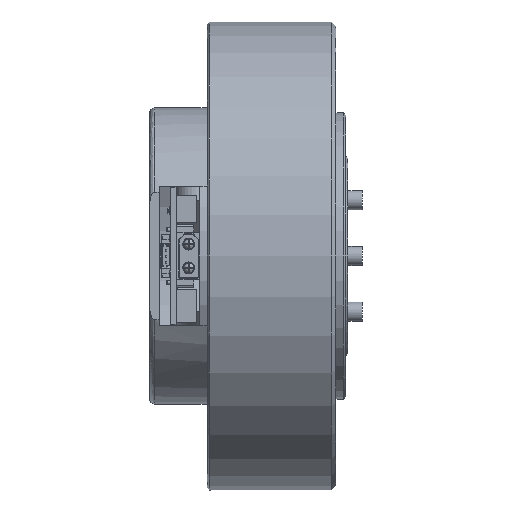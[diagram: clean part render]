
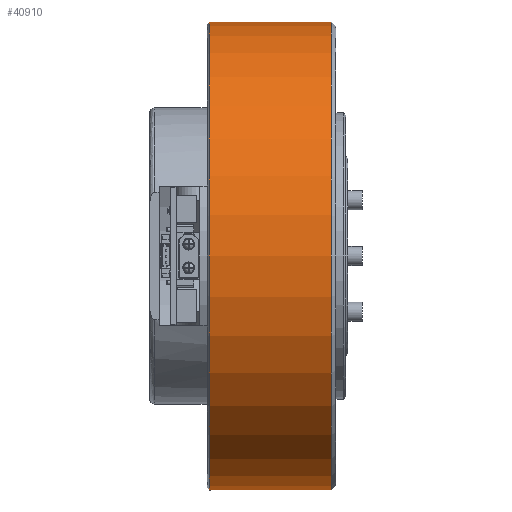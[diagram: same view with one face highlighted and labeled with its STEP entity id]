
A CAD part, front view. The second image highlights one B-rep face of the part: STEP entity #40910.
In plain terms, the highlighted cylindrical face has radius 49 mm (diameter 98 mm), a partial arc.
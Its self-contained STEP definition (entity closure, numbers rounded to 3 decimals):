
#677 = ORIENTED_EDGE ( 'NONE', *, *, #32052, .T. ) ;
#6891 = EDGE_CURVE ( 'NONE', #52957, #17259, #38359, .T. ) ;
#6909 = ORIENTED_EDGE ( 'NONE', *, *, #77734, .F. ) ;
#12896 = CARTESIAN_POINT ( 'NONE',  ( -33.712, 21.684, 147. ) ) ;
#17189 = AXIS2_PLACEMENT_3D ( 'NONE', #44027, #76001, #55643 ) ;
#17259 = VERTEX_POINT ( 'NONE', #34883 ) ;
#17591 = DIRECTION ( 'NONE',  ( -1., 0., 0. ) ) ;
#17983 = DIRECTION ( 'NONE',  ( 0., 0., 1. ) ) ;
#19243 = FACE_OUTER_BOUND ( 'NONE', #32227, .T. ) ;
#21188 = CIRCLE ( 'NONE', #17189, 49. ) ;
#21316 = VERTEX_POINT ( 'NONE', #12896 ) ;
#22260 = VECTOR ( 'NONE', #17591, 1000. ) ;
#22610 = LINE ( 'NONE', #23815, #22260 ) ;
#23815 = CARTESIAN_POINT ( 'NONE',  ( -20.962, 21.684, 147. ) ) ;
#25291 = AXIS2_PLACEMENT_3D ( 'NONE', #50881, #42985, #17983 ) ;
#28329 = VERTEX_POINT ( 'NONE', #45075 ) ;
#29827 = CARTESIAN_POINT ( 'NONE',  ( -8.212, 21.684, 98. ) ) ;
#30568 = VECTOR ( 'NONE', #81182, 1000. ) ;
#30933 = AXIS2_PLACEMENT_3D ( 'NONE', #29827, #55168, #42741 ) ;
#32052 = EDGE_CURVE ( 'NONE', #52957, #28329, #60142, .T. ) ;
#32227 = EDGE_LOOP ( 'NONE', ( #35939, #677, #77480, #6909 ) ) ;
#34883 = CARTESIAN_POINT ( 'NONE',  ( -33.712, 21.684, 49. ) ) ;
#35939 = ORIENTED_EDGE ( 'NONE', *, *, #6891, .F. ) ;
#38359 = LINE ( 'NONE', #55854, #30568 ) ;
#40910 = ADVANCED_FACE ( 'NONE', ( #19243 ), #62913, .T. ) ;
#42741 = DIRECTION ( 'NONE',  ( 0., 0., 1. ) ) ;
#42985 = DIRECTION ( 'NONE',  ( -1., 0., 0. ) ) ;
#43040 = CARTESIAN_POINT ( 'NONE',  ( -8.212, 21.684, 49. ) ) ;
#44027 = CARTESIAN_POINT ( 'NONE',  ( -33.712, 21.684, 98. ) ) ;
#45075 = CARTESIAN_POINT ( 'NONE',  ( -8.212, 21.684, 147. ) ) ;
#50881 = CARTESIAN_POINT ( 'NONE',  ( -20.962, 21.684, 98. ) ) ;
#52957 = VERTEX_POINT ( 'NONE', #43040 ) ;
#53523 = EDGE_CURVE ( 'NONE', #28329, #21316, #22610, .T. ) ;
#55168 = DIRECTION ( 'NONE',  ( -1., 0., 0. ) ) ;
#55643 = DIRECTION ( 'NONE',  ( 0., 1., 0. ) ) ;
#55854 = CARTESIAN_POINT ( 'NONE',  ( -20.962, 21.684, 49. ) ) ;
#60142 = CIRCLE ( 'NONE', #30933, 49. ) ;
#62913 = CYLINDRICAL_SURFACE ( 'NONE', #25291, 49. ) ;
#76001 = DIRECTION ( 'NONE',  ( -1., 0., 0. ) ) ;
#77480 = ORIENTED_EDGE ( 'NONE', *, *, #53523, .T. ) ;
#77734 = EDGE_CURVE ( 'NONE', #17259, #21316, #21188, .T. ) ;
#81182 = DIRECTION ( 'NONE',  ( -1., 0., 0. ) ) ;
